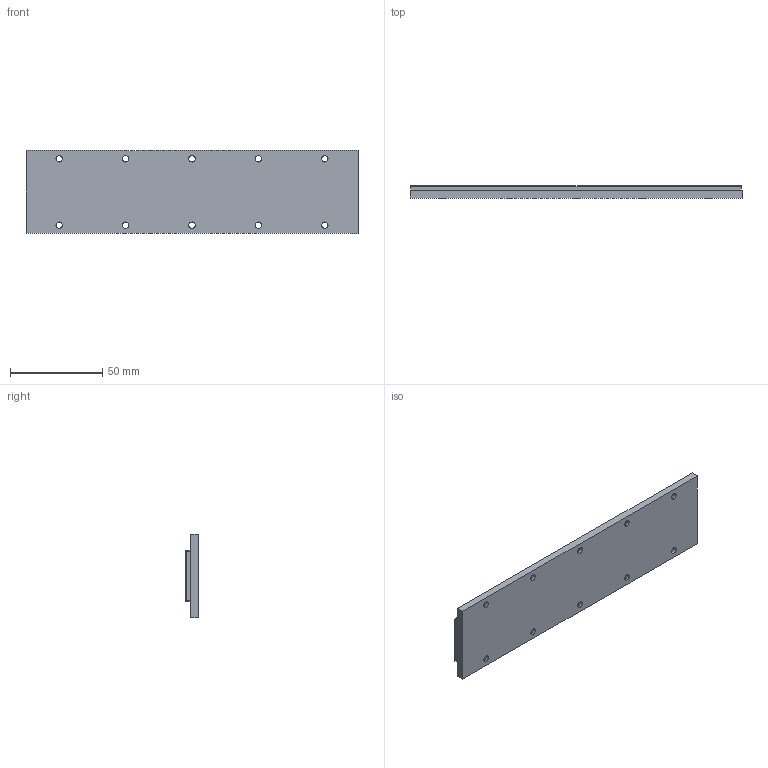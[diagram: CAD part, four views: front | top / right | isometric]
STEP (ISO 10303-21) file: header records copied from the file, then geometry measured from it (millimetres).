
FILE_DESCRIPTION (( 'STEP AP203' ), '1' );
FILE_NAME ('CMI180.STEP', '2025-12-28T08:06:28', ( '' ), ( '' ), 'SwSTEP 2.0', 'SolidWorks 2024', '' );
FILE_SCHEMA (( 'CONFIG_CONTROL_DESIGN' ));
Length unit declared in the file: millimetre
Products named in the file (1): CMI180
Bounding box: 180 x 6.7 x 45 mm (x, y, z)
Volume: 44589.8 mm3; surface area: 21492.8 mm2
Topology: 1 solids, 1 shells, 103 faces, 248 edges, 160 vertices
Faces by surface type: plane 47, cylinder 44, bspline 12
Entity records: 3343 total; most frequent: CARTESIAN_POINT 820, DIRECTION 496, ORIENTED_EDGE 496, EDGE_CURVE 248, AXIS2_PLACEMENT_3D 180, VERTEX_POINT 160, EDGE_LOOP 136, LINE 136
